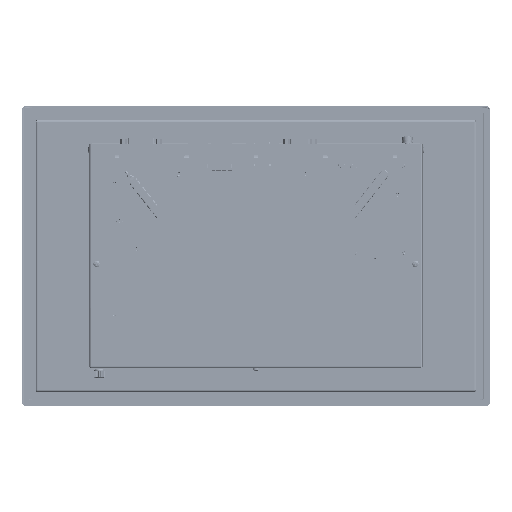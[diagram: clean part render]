
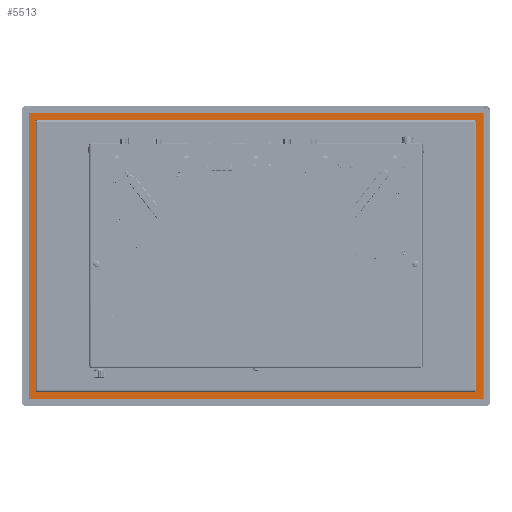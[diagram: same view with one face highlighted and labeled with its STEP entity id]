
A CAD part, front view. The second image highlights one B-rep face of the part: STEP entity #5513.
In plain terms, the highlighted planar face has unit normal (0, -1, 0).
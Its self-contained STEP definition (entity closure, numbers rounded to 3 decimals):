
#3105=CARTESIAN_POINT('',(208.,1.4,-127.));
#3106=DIRECTION('',(0.,1.,0.));
#3107=DIRECTION('',(1.,0.,0.));
#3108=AXIS2_PLACEMENT_3D('',#3105,#3106,#3107);
#3110=DIRECTION('',(-1.,0.,0.));
#3111=VECTOR('',#3110,416.);
#3112=CARTESIAN_POINT('',(208.,1.4,-128.));
#3113=LINE('',#3112,#3111);
#3114=CARTESIAN_POINT('',(-208.,1.4,-127.));
#3115=DIRECTION('',(0.,1.,0.));
#3116=DIRECTION('',(0.,0.,-1.));
#3117=AXIS2_PLACEMENT_3D('',#3114,#3115,#3116);
#3119=DIRECTION('',(0.,0.,1.));
#3120=VECTOR('',#3119,261.);
#3121=CARTESIAN_POINT('',(-209.,1.4,-127.));
#3122=LINE('',#3121,#3120);
#3123=CARTESIAN_POINT('',(-208.,1.4,134.));
#3124=DIRECTION('',(0.,1.,0.));
#3125=DIRECTION('',(-1.,0.,0.));
#3126=AXIS2_PLACEMENT_3D('',#3123,#3124,#3125);
#3128=DIRECTION('',(1.,0.,0.));
#3129=VECTOR('',#3128,416.);
#3130=CARTESIAN_POINT('',(-208.,1.4,135.));
#3131=LINE('',#3130,#3129);
#3132=CARTESIAN_POINT('',(208.,1.4,134.));
#3133=DIRECTION('',(0.,1.,0.));
#3134=DIRECTION('',(0.,0.,1.));
#3135=AXIS2_PLACEMENT_3D('',#3132,#3133,#3134);
#3137=DIRECTION('',(0.,0.,-1.));
#3138=VECTOR('',#3137,261.);
#3139=CARTESIAN_POINT('',(209.,1.4,134.));
#3140=LINE('',#3139,#3138);
#3141=DIRECTION('',(1.,0.,0.));
#3142=VECTOR('',#3141,403.);
#3143=CARTESIAN_POINT('',(-201.5,1.4,-120.5));
#3144=LINE('',#3143,#3142);
#3145=DIRECTION('',(0.,0.,1.));
#3146=VECTOR('',#3145,247.996);
#3147=CARTESIAN_POINT('',(201.5,1.4,-120.5));
#3148=LINE('',#3147,#3146);
#3149=DIRECTION('',(-1.,0.,0.));
#3150=VECTOR('',#3149,403.);
#3151=CARTESIAN_POINT('',(201.5,1.4,127.496));
#3152=LINE('',#3151,#3150);
#3153=DIRECTION('',(0.,0.,-1.));
#3154=VECTOR('',#3153,247.996);
#3155=CARTESIAN_POINT('',(-201.5,1.4,127.496));
#3156=LINE('',#3155,#3154);
#3251=CARTESIAN_POINT('',(208.,1.4,-128.));
#3252=CARTESIAN_POINT('',(209.,1.4,-127.));
#3253=VERTEX_POINT('',#3251);
#3254=VERTEX_POINT('',#3252);
#3255=CARTESIAN_POINT('',(209.,1.4,134.));
#3256=VERTEX_POINT('',#3255);
#3257=CARTESIAN_POINT('',(208.,1.4,135.));
#3258=VERTEX_POINT('',#3257);
#3259=CARTESIAN_POINT('',(-208.,1.4,135.));
#3260=VERTEX_POINT('',#3259);
#3261=CARTESIAN_POINT('',(-209.,1.4,134.));
#3262=VERTEX_POINT('',#3261);
#3263=CARTESIAN_POINT('',(-209.,1.4,-127.));
#3264=VERTEX_POINT('',#3263);
#3265=CARTESIAN_POINT('',(-208.,1.4,-128.));
#3266=VERTEX_POINT('',#3265);
#3267=CARTESIAN_POINT('',(201.5,1.4,-120.5));
#3268=CARTESIAN_POINT('',(-201.5,1.4,-120.5));
#3269=VERTEX_POINT('',#3267);
#3270=VERTEX_POINT('',#3268);
#3271=CARTESIAN_POINT('',(-201.5,1.4,127.496));
#3272=VERTEX_POINT('',#3271);
#3273=CARTESIAN_POINT('',(201.5,1.4,127.496));
#3274=VERTEX_POINT('',#3273);
#5480=CARTESIAN_POINT('',(0.,1.4,0.));
#5481=DIRECTION('',(0.,-1.,0.));
#5482=DIRECTION('',(-1.,0.,0.));
#5483=AXIS2_PLACEMENT_3D('',#5480,#5481,#5482);
#5484=PLANE('',#5483);
#5486=ORIENTED_EDGE('',*,*,#5485,.T.);
#5488=ORIENTED_EDGE('',*,*,#5487,.T.);
#5490=ORIENTED_EDGE('',*,*,#5489,.T.);
#5492=ORIENTED_EDGE('',*,*,#5491,.T.);
#5494=ORIENTED_EDGE('',*,*,#5493,.T.);
#5496=ORIENTED_EDGE('',*,*,#5495,.T.);
#5498=ORIENTED_EDGE('',*,*,#5497,.T.);
#5500=ORIENTED_EDGE('',*,*,#5499,.T.);
#5501=EDGE_LOOP('',(#5486,#5488,#5490,#5492,#5494,#5496,#5498,#5500));
#5502=FACE_OUTER_BOUND('',#5501,.F.);
#5504=ORIENTED_EDGE('',*,*,#5503,.T.);
#5506=ORIENTED_EDGE('',*,*,#5505,.T.);
#5508=ORIENTED_EDGE('',*,*,#5507,.T.);
#5510=ORIENTED_EDGE('',*,*,#5509,.T.);
#5511=EDGE_LOOP('',(#5504,#5506,#5508,#5510));
#5512=FACE_BOUND('',#5511,.F.);
#3109=CIRCLE('',#3108,1.);
#3118=CIRCLE('',#3117,1.);
#3127=CIRCLE('',#3126,1.);
#3136=CIRCLE('',#3135,1.);
#5485=EDGE_CURVE('',#3254,#3253,#3109,.T.);
#5487=EDGE_CURVE('',#3253,#3266,#3113,.T.);
#5489=EDGE_CURVE('',#3266,#3264,#3118,.T.);
#5491=EDGE_CURVE('',#3264,#3262,#3122,.T.);
#5493=EDGE_CURVE('',#3262,#3260,#3127,.T.);
#5495=EDGE_CURVE('',#3260,#3258,#3131,.T.);
#5497=EDGE_CURVE('',#3258,#3256,#3136,.T.);
#5499=EDGE_CURVE('',#3256,#3254,#3140,.T.);
#5503=EDGE_CURVE('',#3270,#3269,#3144,.T.);
#5505=EDGE_CURVE('',#3269,#3274,#3148,.T.);
#5507=EDGE_CURVE('',#3274,#3272,#3152,.T.);
#5509=EDGE_CURVE('',#3272,#3270,#3156,.T.);
#5513=ADVANCED_FACE('',(#5502,#5512),#5484,.T.);
